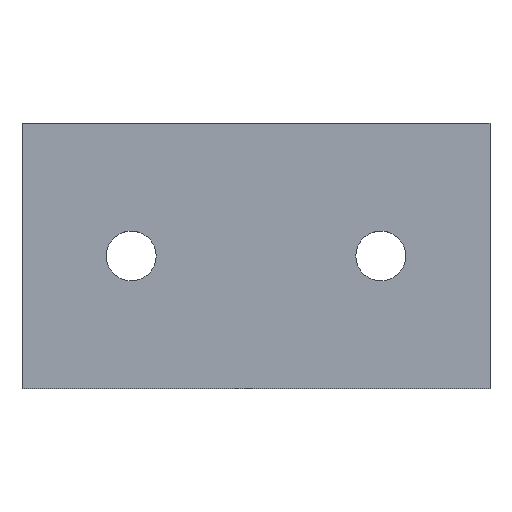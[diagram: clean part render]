
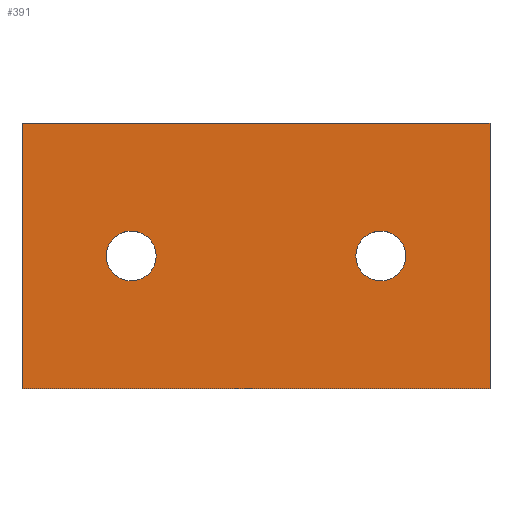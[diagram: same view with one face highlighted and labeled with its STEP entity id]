
A CAD part, top view. The second image highlights one B-rep face of the part: STEP entity #391.
In plain terms, the highlighted planar face has unit normal (0, 0, 1).
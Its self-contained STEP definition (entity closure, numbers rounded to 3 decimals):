
#184=CIRCLE('',#374,8.);
#185=CIRCLE('',#375,8.);
#192=ORIENTED_EDGE('',*,*,#260,.T.);
#193=ORIENTED_EDGE('',*,*,#261,.F.);
#194=ORIENTED_EDGE('',*,*,#256,.F.);
#195=ORIENTED_EDGE('',*,*,#262,.T.);
#196=ORIENTED_EDGE('',*,*,#263,.F.);
#197=ORIENTED_EDGE('',*,*,#264,.F.);
#220=VECTOR('',#302,1.);
#224=VECTOR('',#308,1.);
#225=VECTOR('',#309,1.);
#226=VECTOR('',#310,1.);
#232=LINE('',#339,#220);
#236=LINE('',#348,#224);
#237=LINE('',#349,#225);
#238=LINE('',#350,#226);
#244=VERTEX_POINT('',#337);
#245=VERTEX_POINT('',#338);
#248=VERTEX_POINT('',#346);
#249=VERTEX_POINT('',#347);
#250=VERTEX_POINT('',#351);
#251=VERTEX_POINT('',#353);
#256=EDGE_CURVE('',#244,#245,#232,.T.);
#260=EDGE_CURVE('',#248,#249,#236,.T.);
#261=EDGE_CURVE('',#245,#249,#237,.T.);
#262=EDGE_CURVE('',#244,#248,#238,.T.);
#263=EDGE_CURVE('',#250,#250,#184,.T.);
#264=EDGE_CURVE('',#251,#251,#185,.T.);
#273=EDGE_LOOP('',(#192,#193,#194,#195));
#274=EDGE_LOOP('',(#196));
#275=EDGE_LOOP('',(#197));
#287=FACE_BOUND('',#273,.T.);
#288=FACE_BOUND('',#274,.T.);
#289=FACE_BOUND('',#275,.T.);
#302=DIRECTION('',(-150.,0.,0.));
#306=DIRECTION('',(0.,0.,1.));
#307=DIRECTION('',(0.,-1.,0.));
#308=DIRECTION('',(-150.,0.,0.));
#309=DIRECTION('',(0.,85.,0.));
#310=DIRECTION('',(0.,85.,0.));
#311=DIRECTION('',(0.,0.,1.));
#312=DIRECTION('',(0.,-8.,0.));
#313=DIRECTION('',(0.,0.,1.));
#314=DIRECTION('',(0.,-8.,0.));
#337=CARTESIAN_POINT('',(150.,0.,0.));
#338=CARTESIAN_POINT('',(0.,0.,0.));
#339=CARTESIAN_POINT('',(150.,0.,0.));
#345=CARTESIAN_POINT('',(150.,85.,0.));
#346=CARTESIAN_POINT('',(150.,85.,0.));
#347=CARTESIAN_POINT('',(0.,85.,0.));
#348=CARTESIAN_POINT('',(150.,85.,0.));
#349=CARTESIAN_POINT('',(0.,0.,0.));
#350=CARTESIAN_POINT('',(150.,0.,0.));
#351=CARTESIAN_POINT('',(35.,34.5,0.));
#352=CARTESIAN_POINT('',(35.,42.5,0.));
#353=CARTESIAN_POINT('',(115.,34.5,0.));
#354=CARTESIAN_POINT('',(115.,42.5,0.));
#373=AXIS2_PLACEMENT_3D('',#345,#306,#307);
#374=AXIS2_PLACEMENT_3D('',#352,#311,#312);
#375=AXIS2_PLACEMENT_3D('',#354,#313,#314);
#385=PLANE('',#373);
#391=ADVANCED_FACE('',(#287,#288,#289),#385,.T.);
